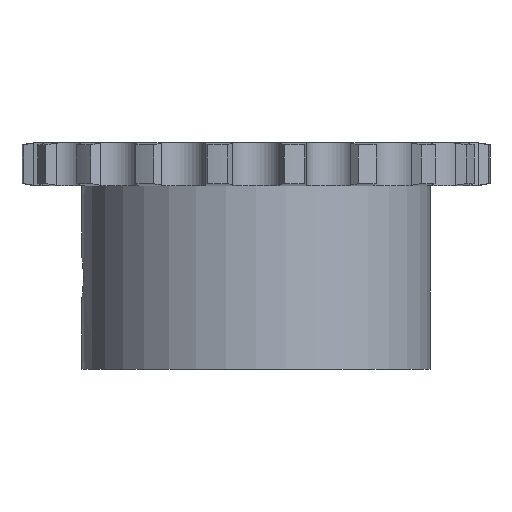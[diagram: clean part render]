
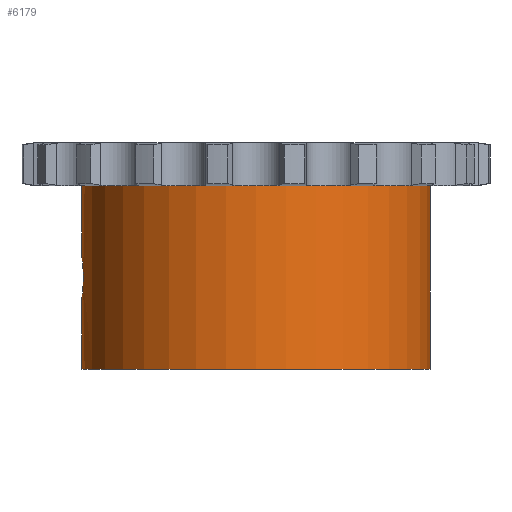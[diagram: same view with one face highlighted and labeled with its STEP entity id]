
A CAD part, front view. The second image highlights one B-rep face of the part: STEP entity #6179.
In plain terms, the highlighted cylindrical face has radius 21.5 mm (diameter 43 mm), a partial arc.
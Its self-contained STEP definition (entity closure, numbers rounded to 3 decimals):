
#1297=CARTESIAN_POINT('',(0.,0.,-2.65));
#1298=DIRECTION('',(0.,0.,1.));
#1299=DIRECTION('',(-1.,0.,0.));
#1300=AXIS2_PLACEMENT_3D('',#1297,#1298,#1299);
#3086=CARTESIAN_POINT('',(-21.5,0.,
-11.5));
#3107=DIRECTION('',(0.,0.,1.));
#3108=VECTOR('',#3107,22.7);
#3109=CARTESIAN_POINT('',(21.5,0.,-25.35));
#3110=LINE('',#3109,#3108);
#3221=CARTESIAN_POINT('',(0.,0.,-25.35));
#3222=DIRECTION('',(0.,0.,-1.));
#3223=DIRECTION('',(1.,0.,0.));
#3224=AXIS2_PLACEMENT_3D('',#3221,#3222,#3223);
#3250=CARTESIAN_POINT('',(-21.5,0.,
-11.5));
#3251=CARTESIAN_POINT('',(-21.5,-0.15,
-11.5));
#3252=CARTESIAN_POINT('',(-21.497,-0.446,
-11.526));
#3253=CARTESIAN_POINT('',(-21.483,-0.885,
-11.642));
#3254=CARTESIAN_POINT('',(-21.462,-1.292,
-11.83));
#3255=CARTESIAN_POINT('',(-21.437,-1.657,
-12.084));
#3256=CARTESIAN_POINT('',(-21.41,-1.973,
-12.398));
#3257=CARTESIAN_POINT('',(-21.384,-2.23,
-12.765));
#3258=CARTESIAN_POINT('',(-21.364,-2.415,
-13.166));
#3259=CARTESIAN_POINT('',(-21.351,-2.524,
-13.586));
#3260=CARTESIAN_POINT('',(-21.348,-2.547,
-13.862));
#3261=CARTESIAN_POINT('',(-21.348,-2.547,
-14.));
#3266=DIRECTION('',(0.,0.,1.));
#3267=VECTOR('',#3266,8.85);
#3268=CARTESIAN_POINT('',(-21.5,0.,
-11.5));
#3269=LINE('',#3268,#3267);
#3273=DIRECTION('',(0.,0.,1.));
#3274=VECTOR('',#3273,8.85);
#3275=CARTESIAN_POINT('',(-21.5,0.,-25.35));
#3276=LINE('',#3275,#3274);
#3280=CARTESIAN_POINT('',(-21.348,-2.547,
-14.));
#3281=CARTESIAN_POINT('',(-21.348,-2.548,
-14.138));
#3282=CARTESIAN_POINT('',(-21.351,-2.525,
-14.413));
#3283=CARTESIAN_POINT('',(-21.364,-2.416,
-14.833));
#3284=CARTESIAN_POINT('',(-21.384,-2.231,
-15.234));
#3285=CARTESIAN_POINT('',(-21.41,-1.974,
-15.601));
#3286=CARTESIAN_POINT('',(-21.437,-1.657,
-15.915));
#3287=CARTESIAN_POINT('',(-21.462,-1.292,
-16.17));
#3288=CARTESIAN_POINT('',(-21.483,-0.885,
-16.358));
#3289=CARTESIAN_POINT('',(-21.497,-0.446,
-16.474));
#3290=CARTESIAN_POINT('',(-21.5,-0.15,
-16.5));
#3291=CARTESIAN_POINT('',(-21.5,0.,
-16.5));
#3679=CARTESIAN_POINT('',(-21.5,0.,-25.35));
#3680=CARTESIAN_POINT('',(21.5,0.,-25.35));
#3681=VERTEX_POINT('',#3679);
#3682=VERTEX_POINT('',#3680);
#3683=CARTESIAN_POINT('',(21.5,0.,-2.65));
#3684=VERTEX_POINT('',#3683);
#3685=CARTESIAN_POINT('',(-21.5,0.,-2.65));
#3686=VERTEX_POINT('',#3685);
#3884=VERTEX_POINT('',#3086);
#3887=VERTEX_POINT('',#3261);
#3889=VERTEX_POINT('',#3291);
#6163=CARTESIAN_POINT('',(0.,0.,2.65));
#6164=DIRECTION('',(0.,0.,1.));
#6165=DIRECTION('',(1.,0.,0.));
#6166=AXIS2_PLACEMENT_3D('',#6163,#6164,#6165);
#6167=CYLINDRICAL_SURFACE('',#6166,21.5);
#6169=ORIENTED_EDGE('',*,*,#6168,.F.);
#6170=ORIENTED_EDGE('',*,*,#5905,.T.);
#6171=ORIENTED_EDGE('',*,*,#5212,.T.);
#6172=ORIENTED_EDGE('',*,*,#5902,.F.);
#6173=ORIENTED_EDGE('',*,*,#6149,.T.);
#6174=ORIENTED_EDGE('',*,*,#5898,.T.);
#6176=ORIENTED_EDGE('',*,*,#6175,.F.);
#6177=EDGE_LOOP('',(#6169,#6170,#6171,#6172,#6173,#6174,#6176));
#6178=FACE_OUTER_BOUND('',#6177,.F.);
#6179=ADVANCED_FACE('',(#6178),#6167,.T.);
#1301=CIRCLE('',#1300,21.5);
#3225=CIRCLE('',#3224,21.5);
#3262=B_SPLINE_CURVE_WITH_KNOTS('',3,(#3250,#3251,#3252,#3253,#3254,#3255,#3256,
#3257,#3258,#3259,#3260,#3261),.UNSPECIFIED.,.F.,.F.,(4,1,1,1,1,1,1,1,1,4),
(0.,0.111,0.222,0.333,0.444,
0.556,0.667,0.778,0.889,1.),
.UNSPECIFIED.);
#3292=B_SPLINE_CURVE_WITH_KNOTS('',3,(#3280,#3281,#3282,#3283,#3284,#3285,#3286,
#3287,#3288,#3289,#3290,#3291),.UNSPECIFIED.,.F.,.F.,(4,1,1,1,1,1,1,1,1,4),
(0.,0.111,0.222,0.333,0.444,
0.556,0.667,0.778,0.889,1.),
.UNSPECIFIED.);
#5212=EDGE_CURVE('',#3686,#3684,#1301,.T.);
#5898=EDGE_CURVE('',#3681,#3889,#3276,.T.);
#5902=EDGE_CURVE('',#3682,#3684,#3110,.T.);
#5905=EDGE_CURVE('',#3884,#3686,#3269,.T.);
#6149=EDGE_CURVE('',#3682,#3681,#3225,.T.);
#6168=EDGE_CURVE('',#3884,#3887,#3262,.T.);
#6175=EDGE_CURVE('',#3887,#3889,#3292,.T.);
